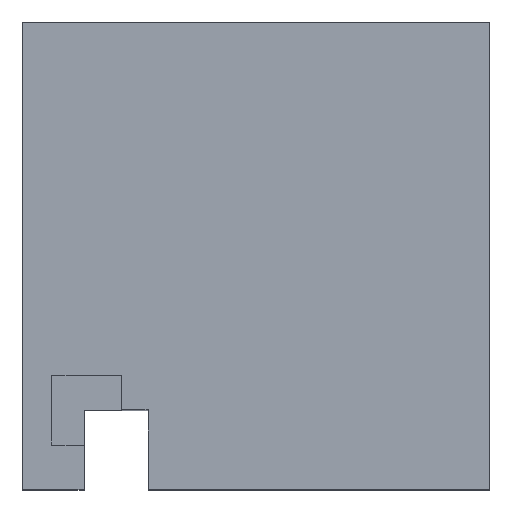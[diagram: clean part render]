
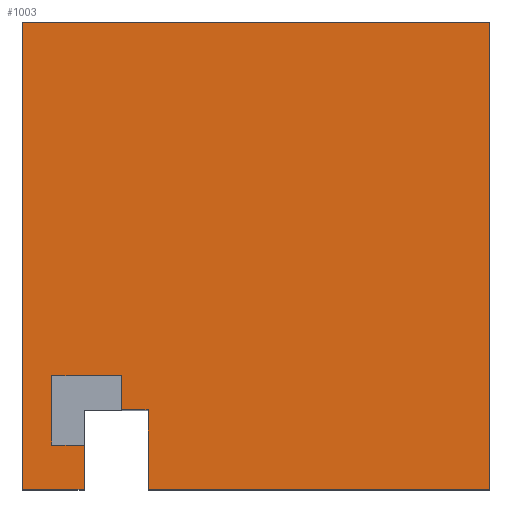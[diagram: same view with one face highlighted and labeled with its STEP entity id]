
A CAD part, top view. The second image highlights one B-rep face of the part: STEP entity #1003.
In plain terms, the highlighted planar face has unit normal (0, 0, 1).
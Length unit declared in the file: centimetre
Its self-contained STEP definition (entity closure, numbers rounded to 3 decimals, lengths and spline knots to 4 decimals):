
#14 = EDGE_CURVE ( 'NONE', #714, #1005, #1192, .T. ) ;
#23 = CARTESIAN_POINT ( 'NONE',  ( 0., 1000., 1000. ) ) ;
#26 = CARTESIAN_POINT ( 'NONE',  ( 132.1825, 170.2606, 1000. ) ) ;
#36 = LINE ( 'NONE', #826, #461 ) ;
#45 = ORIENTED_EDGE ( 'NONE', *, *, #582, .F. ) ;
#52 = DIRECTION ( 'NONE',  ( 1., 0., 0. ) ) ;
#60 = CARTESIAN_POINT ( 'NONE',  ( 0., 1000., 1000. ) ) ;
#70 = LINE ( 'NONE', #651, #332 ) ;
#80 = VERTEX_POINT ( 'NONE', #85 ) ;
#85 = CARTESIAN_POINT ( 'NONE',  ( 132.1825, 95.0311, 1000. ) ) ;
#99 = CARTESIAN_POINT ( 'NONE',  ( 0., 0., 1000. ) ) ;
#112 = CARTESIAN_POINT ( 'NONE',  ( 211.6584, 95.0311, 1000. ) ) ;
#121 = DIRECTION ( 'NONE',  ( 1., 0., 0. ) ) ;
#127 = LINE ( 'NONE', #827, #911 ) ;
#147 = VERTEX_POINT ( 'NONE', #877 ) ;
#165 = VERTEX_POINT ( 'NONE', #1083 ) ;
#187 = CARTESIAN_POINT ( 'NONE',  ( 0., 0., 1000. ) ) ;
#197 = ORIENTED_EDGE ( 'NONE', *, *, #430, .T. ) ;
#211 = CARTESIAN_POINT ( 'NONE',  ( 63.467, 95.0311, 1000. ) ) ;
#221 = LINE ( 'NONE', #26, #394 ) ;
#225 = VECTOR ( 'NONE', #356, 100. ) ;
#226 = VECTOR ( 'NONE', #896, 100. ) ;
#239 = DIRECTION ( 'NONE',  ( 0., 1., 0. ) ) ;
#247 = VECTOR ( 'NONE', #1200, 100. ) ;
#253 = CARTESIAN_POINT ( 'NONE',  ( 1000., 0., 1000. ) ) ;
#266 = CARTESIAN_POINT ( 'NONE',  ( 269.11, 170.2606, 1000. ) ) ;
#269 = ORIENTED_EDGE ( 'NONE', *, *, #1012, .T. ) ;
#277 = EDGE_CURVE ( 'NONE', #1090, #1060, #988, .T. ) ;
#284 = EDGE_CURVE ( 'NONE', #1024, #165, #1205, .T. ) ;
#332 = VECTOR ( 'NONE', #866, 100. ) ;
#336 = EDGE_CURVE ( 'NONE', #355, #147, #1093, .T. ) ;
#341 = CARTESIAN_POINT ( 'NONE',  ( 132.1825, 0., 1000. ) ) ;
#346 = PLANE ( 'NONE',  #1143 ) ;
#348 = VERTEX_POINT ( 'NONE', #604 ) ;
#353 = VECTOR ( 'NONE', #549, 100. ) ;
#355 = VERTEX_POINT ( 'NONE', #521 ) ;
#356 = DIRECTION ( 'NONE',  ( 0., -1., 0. ) ) ;
#394 = VECTOR ( 'NONE', #121, 100. ) ;
#402 = ORIENTED_EDGE ( 'NONE', *, *, #14, .T. ) ;
#422 = ORIENTED_EDGE ( 'NONE', *, *, #1181, .F. ) ;
#423 = CARTESIAN_POINT ( 'NONE',  ( 269.11, 0., 1000. ) ) ;
#430 = EDGE_CURVE ( 'NONE', #1060, #355, #724, .T. ) ;
#439 = DIRECTION ( 'NONE',  ( 0., -1., 0. ) ) ;
#444 = ORIENTED_EDGE ( 'NONE', *, *, #505, .F. ) ;
#461 = VECTOR ( 'NONE', #1021, 100. ) ;
#479 = ORIENTED_EDGE ( 'NONE', *, *, #1198, .T. ) ;
#505 = EDGE_CURVE ( 'NONE', #165, #348, #127, .T. ) ;
#521 = CARTESIAN_POINT ( 'NONE',  ( 1000., 1000., 1000. ) ) ;
#534 = CARTESIAN_POINT ( 'NONE',  ( 269.11, 0., 1000. ) ) ;
#548 = ORIENTED_EDGE ( 'NONE', *, *, #277, .T. ) ;
#549 = DIRECTION ( 'NONE',  ( 0., -1., 0. ) ) ;
#582 = EDGE_CURVE ( 'NONE', #692, #80, #70, .T. ) ;
#597 = DIRECTION ( 'NONE',  ( 1., 0., 0. ) ) ;
#604 = CARTESIAN_POINT ( 'NONE',  ( 63.467, 243.379, 1000. ) ) ;
#618 = VECTOR ( 'NONE', #239, 100. ) ;
#625 = CARTESIAN_POINT ( 'NONE',  ( 1000., 1000., 1000. ) ) ;
#651 = CARTESIAN_POINT ( 'NONE',  ( 63.467, 95.0311, 1000. ) ) ;
#656 = LINE ( 'NONE', #859, #353 ) ;
#685 = VECTOR ( 'NONE', #439, 100. ) ;
#692 = VERTEX_POINT ( 'NONE', #211 ) ;
#694 = ORIENTED_EDGE ( 'NONE', *, *, #1121, .T. ) ;
#714 = VERTEX_POINT ( 'NONE', #187 ) ;
#723 = DIRECTION ( 'NONE',  ( 0., 0., 1. ) ) ;
#724 = LINE ( 'NONE', #625, #618 ) ;
#762 = CARTESIAN_POINT ( 'NONE',  ( 0., 0., 1000. ) ) ;
#801 = VECTOR ( 'NONE', #597, 100. ) ;
#805 = ORIENTED_EDGE ( 'NONE', *, *, #831, .T. ) ;
#817 = DIRECTION ( 'NONE',  ( -1., 0., 0. ) ) ;
#826 = CARTESIAN_POINT ( 'NONE',  ( 132.1825, 0., 1000. ) ) ;
#827 = CARTESIAN_POINT ( 'NONE',  ( 63.467, 243.379, 1000. ) ) ;
#831 = EDGE_CURVE ( 'NONE', #1024, #1172, #221, .T. ) ;
#859 = CARTESIAN_POINT ( 'NONE',  ( 63.467, 95.0311, 1000. ) ) ;
#866 = DIRECTION ( 'NONE',  ( 1., 0., 0. ) ) ;
#877 = CARTESIAN_POINT ( 'NONE',  ( 0., 1000., 1000. ) ) ;
#896 = DIRECTION ( 'NONE',  ( -1., 0., 0. ) ) ;
#911 = VECTOR ( 'NONE', #817, 100. ) ;
#943 = EDGE_LOOP ( 'NONE', ( #1066, #805, #694, #548, #197, #969, #479, #402, #269, #45, #422, #444 ) ) ;
#969 = ORIENTED_EDGE ( 'NONE', *, *, #336, .T. ) ;
#977 = VECTOR ( 'NONE', #1164, 100. ) ;
#988 = LINE ( 'NONE', #99, #801 ) ;
#1003 = ADVANCED_FACE ( 'NONE', ( #1209 ), #346, .T. ) ;
#1005 = VERTEX_POINT ( 'NONE', #341 ) ;
#1012 = EDGE_CURVE ( 'NONE', #1005, #80, #36, .T. ) ;
#1021 = DIRECTION ( 'NONE',  ( 0., 1., 0. ) ) ;
#1024 = VERTEX_POINT ( 'NONE', #1222 ) ;
#1031 = LINE ( 'NONE', #534, #685 ) ;
#1060 = VERTEX_POINT ( 'NONE', #253 ) ;
#1066 = ORIENTED_EDGE ( 'NONE', *, *, #284, .F. ) ;
#1083 = CARTESIAN_POINT ( 'NONE',  ( 211.6584, 243.379, 1000. ) ) ;
#1090 = VERTEX_POINT ( 'NONE', #423 ) ;
#1093 = LINE ( 'NONE', #23, #226 ) ;
#1120 = CARTESIAN_POINT ( 'NONE',  ( 0., 0., 1000. ) ) ;
#1121 = EDGE_CURVE ( 'NONE', #1172, #1090, #1031, .T. ) ;
#1143 = AXIS2_PLACEMENT_3D ( 'NONE', #1120, #723, #52 ) ;
#1152 = LINE ( 'NONE', #60, #225 ) ;
#1164 = DIRECTION ( 'NONE',  ( 1., 0., 0. ) ) ;
#1172 = VERTEX_POINT ( 'NONE', #266 ) ;
#1181 = EDGE_CURVE ( 'NONE', #348, #692, #656, .T. ) ;
#1192 = LINE ( 'NONE', #762, #977 ) ;
#1198 = EDGE_CURVE ( 'NONE', #147, #714, #1152, .T. ) ;
#1200 = DIRECTION ( 'NONE',  ( 0., 1., 0. ) ) ;
#1205 = LINE ( 'NONE', #112, #247 ) ;
#1209 = FACE_OUTER_BOUND ( 'NONE', #943, .T. ) ;
#1222 = CARTESIAN_POINT ( 'NONE',  ( 211.6584, 170.2606, 1000. ) ) ;
